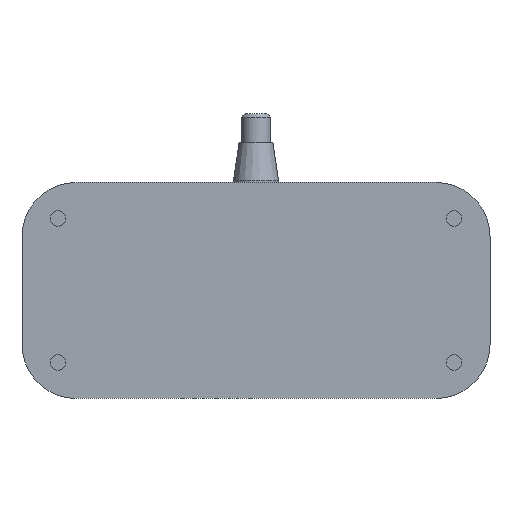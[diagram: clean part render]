
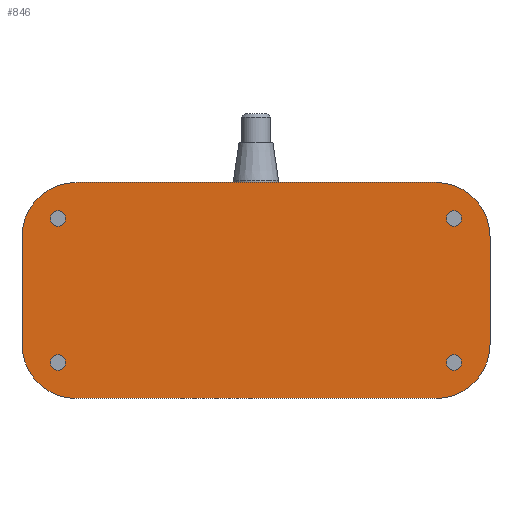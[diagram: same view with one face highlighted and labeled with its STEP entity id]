
A CAD part, front view. The second image highlights one B-rep face of the part: STEP entity #846.
In plain terms, the highlighted planar face has unit normal (0, -1, 0).
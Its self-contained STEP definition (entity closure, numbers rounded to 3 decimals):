
#18 = CARTESIAN_POINT ( 'NONE',  ( -130., 0., -30. ) ) ;
#21 = CIRCLE ( 'NONE', #177, 30. ) ;
#45 = CARTESIAN_POINT ( 'NONE',  ( -100., 0., -60. ) ) ;
#46 = LINE ( 'NONE', #1922, #539 ) ;
#151 = ORIENTED_EDGE ( 'NONE', *, *, #642, .T. ) ;
#159 = CARTESIAN_POINT ( 'NONE',  ( -110., 0., -40. ) ) ;
#177 = AXIS2_PLACEMENT_3D ( 'NONE', #2047, #2040, #2034 ) ;
#201 = ORIENTED_EDGE ( 'NONE', *, *, #728, .T. ) ;
#205 = ORIENTED_EDGE ( 'NONE', *, *, #816, .T. ) ;
#214 = ORIENTED_EDGE ( 'NONE', *, *, #1676, .T. ) ;
#222 = CIRCLE ( 'NONE', #2004, 4.25 ) ;
#229 = CARTESIAN_POINT ( 'NONE',  ( 110., 0., -40. ) ) ;
#234 = ORIENTED_EDGE ( 'NONE', *, *, #650, .F. ) ;
#254 = LINE ( 'NONE', #726, #2121 ) ;
#284 = DIRECTION ( 'NONE',  ( -1., 0., 0. ) ) ;
#306 = DIRECTION ( 'NONE',  ( 0., -1., 0. ) ) ;
#323 = CARTESIAN_POINT ( 'NONE',  ( 105.75, 0., -40. ) ) ;
#361 = LINE ( 'NONE', #1060, #1297 ) ;
#399 = CARTESIAN_POINT ( 'NONE',  ( -105.75, 0., 40. ) ) ;
#411 = CIRCLE ( 'NONE', #683, 30. ) ;
#455 = FACE_BOUND ( 'NONE', #577, .T. ) ;
#503 = EDGE_CURVE ( 'NONE', #1190, #2207, #46, .T. ) ;
#511 = CIRCLE ( 'NONE', #1199, 4.25 ) ;
#539 = VECTOR ( 'NONE', #1910, 1000. ) ;
#541 = DIRECTION ( 'NONE',  ( 0., -1., 0. ) ) ;
#577 = EDGE_LOOP ( 'NONE', ( #693, #1717 ) ) ;
#580 = DIRECTION ( 'NONE',  ( 0., -1., 0. ) ) ;
#585 = CARTESIAN_POINT ( 'NONE',  ( 110., 0., -40. ) ) ;
#600 = ORIENTED_EDGE ( 'NONE', *, *, #1804, .F. ) ;
#612 = CARTESIAN_POINT ( 'NONE',  ( 100., 0., 30. ) ) ;
#619 = LINE ( 'NONE', #2171, #2061 ) ;
#632 = VERTEX_POINT ( 'NONE', #1033 ) ;
#642 = EDGE_CURVE ( 'NONE', #1446, #1190, #1712, .T. ) ;
#650 = EDGE_CURVE ( 'NONE', #2049, #854, #254, .T. ) ;
#655 = DIRECTION ( 'NONE',  ( 0., 0., -1. ) ) ;
#683 = AXIS2_PLACEMENT_3D ( 'NONE', #612, #1931, #1950 ) ;
#693 = ORIENTED_EDGE ( 'NONE', *, *, #1993, .F. ) ;
#697 = CARTESIAN_POINT ( 'NONE',  ( 130., 0., 30. ) ) ;
#726 = CARTESIAN_POINT ( 'NONE',  ( 130., 0., 60. ) ) ;
#728 = EDGE_CURVE ( 'NONE', #2207, #854, #2013, .T. ) ;
#749 = EDGE_CURVE ( 'NONE', #632, #1695, #1085, .T. ) ;
#779 = VERTEX_POINT ( 'NONE', #2130 ) ;
#792 = ORIENTED_EDGE ( 'NONE', *, *, #989, .F. ) ;
#813 = CARTESIAN_POINT ( 'NONE',  ( -100., 0., -30. ) ) ;
#816 = EDGE_CURVE ( 'NONE', #1011, #996, #21, .T. ) ;
#836 = DIRECTION ( 'NONE',  ( 0., -1., 0. ) ) ;
#846 = ADVANCED_FACE ( 'NONE', ( #1543, #1845, #2276, #455, #896 ), #1934, .F. ) ;
#847 = AXIS2_PLACEMENT_3D ( 'NONE', #229, #541, #981 ) ;
#852 = EDGE_LOOP ( 'NONE', ( #1555, #201, #234, #1008, #1191, #205, #214, #151 ) ) ;
#854 = VERTEX_POINT ( 'NONE', #1807 ) ;
#896 = FACE_OUTER_BOUND ( 'NONE', #852, .T. ) ;
#903 = DIRECTION ( 'NONE',  ( 1., 0., 0. ) ) ;
#911 = DIRECTION ( 'NONE',  ( 0., -1., 0. ) ) ;
#916 = CIRCLE ( 'NONE', #1542, 4.25 ) ;
#933 = CARTESIAN_POINT ( 'NONE',  ( 100., 0., -60. ) ) ;
#949 = DIRECTION ( 'NONE',  ( 1., 0., 0. ) ) ;
#955 = DIRECTION ( 'NONE',  ( 0., -1., 0. ) ) ;
#967 = CARTESIAN_POINT ( 'NONE',  ( -110., 0., -40. ) ) ;
#981 = DIRECTION ( 'NONE',  ( 1., 0., 0. ) ) ;
#982 = CIRCLE ( 'NONE', #1505, 4.25 ) ;
#987 = CARTESIAN_POINT ( 'NONE',  ( 100., 0., 60. ) ) ;
#989 = EDGE_CURVE ( 'NONE', #2069, #2281, #222, .T. ) ;
#996 = VERTEX_POINT ( 'NONE', #1175 ) ;
#1008 = ORIENTED_EDGE ( 'NONE', *, *, #1949, .T. ) ;
#1010 = DIRECTION ( 'NONE',  ( 1., 0., 0. ) ) ;
#1011 = VERTEX_POINT ( 'NONE', #1233 ) ;
#1031 = VERTEX_POINT ( 'NONE', #1040 ) ;
#1033 = CARTESIAN_POINT ( 'NONE',  ( -114.25, 0., 40. ) ) ;
#1040 = CARTESIAN_POINT ( 'NONE',  ( 114.25, 0., -40. ) ) ;
#1060 = CARTESIAN_POINT ( 'NONE',  ( -130., 0., 60. ) ) ;
#1064 = AXIS2_PLACEMENT_3D ( 'NONE', #1926, #1999, #1828 ) ;
#1085 = CIRCLE ( 'NONE', #2037, 4.25 ) ;
#1093 = EDGE_LOOP ( 'NONE', ( #1613, #1116 ) ) ;
#1105 = AXIS2_PLACEMENT_3D ( 'NONE', #813, #836, #284 ) ;
#1116 = ORIENTED_EDGE ( 'NONE', *, *, #1345, .F. ) ;
#1174 = DIRECTION ( 'NONE',  ( 1., 0., 0. ) ) ;
#1175 = CARTESIAN_POINT ( 'NONE',  ( -130., 0., 30. ) ) ;
#1190 = VERTEX_POINT ( 'NONE', #45 ) ;
#1191 = ORIENTED_EDGE ( 'NONE', *, *, #1563, .F. ) ;
#1194 = ORIENTED_EDGE ( 'NONE', *, *, #1502, .F. ) ;
#1199 = AXIS2_PLACEMENT_3D ( 'NONE', #585, #580, #1479 ) ;
#1205 = CIRCLE ( 'NONE', #2163, 4.25 ) ;
#1217 = DIRECTION ( 'NONE',  ( 1., 0., 0. ) ) ;
#1225 = DIRECTION ( 'NONE',  ( 0., -1., 0. ) ) ;
#1229 = DIRECTION ( 'NONE',  ( 0., -1., 0. ) ) ;
#1230 = CARTESIAN_POINT ( 'NONE',  ( 110., 0., 40. ) ) ;
#1233 = CARTESIAN_POINT ( 'NONE',  ( -100., 0., 60. ) ) ;
#1235 = VERTEX_POINT ( 'NONE', #323 ) ;
#1239 = CARTESIAN_POINT ( 'NONE',  ( 110., 0., 40. ) ) ;
#1297 = VECTOR ( 'NONE', #1010, 1000. ) ;
#1345 = EDGE_CURVE ( 'NONE', #1235, #1031, #511, .T. ) ;
#1367 = CARTESIAN_POINT ( 'NONE',  ( -114.25, 0., -40. ) ) ;
#1446 = VERTEX_POINT ( 'NONE', #18 ) ;
#1452 = EDGE_LOOP ( 'NONE', ( #792, #600 ) ) ;
#1472 = AXIS2_PLACEMENT_3D ( 'NONE', #967, #955, #949 ) ;
#1479 = DIRECTION ( 'NONE',  ( 1., 0., 0. ) ) ;
#1480 = CARTESIAN_POINT ( 'NONE',  ( 114.25, 0., 40. ) ) ;
#1502 = EDGE_CURVE ( 'NONE', #779, #2155, #982, .T. ) ;
#1505 = AXIS2_PLACEMENT_3D ( 'NONE', #159, #911, #903 ) ;
#1514 = EDGE_LOOP ( 'NONE', ( #1194, #2133 ) ) ;
#1542 = AXIS2_PLACEMENT_3D ( 'NONE', #2076, #2215, #1769 ) ;
#1543 = FACE_BOUND ( 'NONE', #1514, .T. ) ;
#1555 = ORIENTED_EDGE ( 'NONE', *, *, #503, .T. ) ;
#1563 = EDGE_CURVE ( 'NONE', #1011, #2175, #361, .T. ) ;
#1581 = CARTESIAN_POINT ( 'NONE',  ( 105.75, 0., 40. ) ) ;
#1613 = ORIENTED_EDGE ( 'NONE', *, *, #2293, .F. ) ;
#1676 = EDGE_CURVE ( 'NONE', #996, #1446, #619, .T. ) ;
#1695 = VERTEX_POINT ( 'NONE', #399 ) ;
#1712 = CIRCLE ( 'NONE', #1105, 30. ) ;
#1717 = ORIENTED_EDGE ( 'NONE', *, *, #749, .F. ) ;
#1753 = EDGE_CURVE ( 'NONE', #2155, #779, #2177, .T. ) ;
#1769 = DIRECTION ( 'NONE',  ( 1., 0., 0. ) ) ;
#1804 = EDGE_CURVE ( 'NONE', #2281, #2069, #1205, .T. ) ;
#1807 = CARTESIAN_POINT ( 'NONE',  ( 130., 0., -30. ) ) ;
#1828 = DIRECTION ( 'NONE',  ( -1., 0., 0. ) ) ;
#1845 = FACE_BOUND ( 'NONE', #1093, .T. ) ;
#1910 = DIRECTION ( 'NONE',  ( 1., 0., 0. ) ) ;
#1922 = CARTESIAN_POINT ( 'NONE',  ( -130., 0., -60. ) ) ;
#1924 = AXIS2_PLACEMENT_3D ( 'NONE', #2216, #2214, #2212 ) ;
#1926 = CARTESIAN_POINT ( 'NONE',  ( -130., 0., 60. ) ) ;
#1931 = DIRECTION ( 'NONE',  ( 0., -1., 0. ) ) ;
#1934 = PLANE ( 'NONE',  #1064 ) ;
#1949 = EDGE_CURVE ( 'NONE', #2049, #2175, #411, .T. ) ;
#1950 = DIRECTION ( 'NONE',  ( -1., 0., 0. ) ) ;
#1993 = EDGE_CURVE ( 'NONE', #1695, #632, #916, .T. ) ;
#1999 = DIRECTION ( 'NONE',  ( 0., 1., 0. ) ) ;
#2004 = AXIS2_PLACEMENT_3D ( 'NONE', #1230, #1225, #1217 ) ;
#2013 = CIRCLE ( 'NONE', #1924, 30. ) ;
#2034 = DIRECTION ( 'NONE',  ( -1., 0., 0. ) ) ;
#2037 = AXIS2_PLACEMENT_3D ( 'NONE', #2160, #306, #2142 ) ;
#2040 = DIRECTION ( 'NONE',  ( 0., -1., 0. ) ) ;
#2047 = CARTESIAN_POINT ( 'NONE',  ( -100., 0., 30. ) ) ;
#2049 = VERTEX_POINT ( 'NONE', #697 ) ;
#2061 = VECTOR ( 'NONE', #2190, 1000. ) ;
#2069 = VERTEX_POINT ( 'NONE', #1480 ) ;
#2076 = CARTESIAN_POINT ( 'NONE',  ( -110., 0., 40. ) ) ;
#2121 = VECTOR ( 'NONE', #655, 1000. ) ;
#2130 = CARTESIAN_POINT ( 'NONE',  ( -105.75, 0., -40. ) ) ;
#2133 = ORIENTED_EDGE ( 'NONE', *, *, #1753, .F. ) ;
#2134 = CIRCLE ( 'NONE', #847, 4.25 ) ;
#2142 = DIRECTION ( 'NONE',  ( 1., 0., 0. ) ) ;
#2155 = VERTEX_POINT ( 'NONE', #1367 ) ;
#2160 = CARTESIAN_POINT ( 'NONE',  ( -110., 0., 40. ) ) ;
#2163 = AXIS2_PLACEMENT_3D ( 'NONE', #1239, #1229, #1174 ) ;
#2171 = CARTESIAN_POINT ( 'NONE',  ( -130., 0., 60. ) ) ;
#2175 = VERTEX_POINT ( 'NONE', #987 ) ;
#2177 = CIRCLE ( 'NONE', #1472, 4.25 ) ;
#2190 = DIRECTION ( 'NONE',  ( 0., 0., -1. ) ) ;
#2207 = VERTEX_POINT ( 'NONE', #933 ) ;
#2212 = DIRECTION ( 'NONE',  ( -1., 0., 0. ) ) ;
#2214 = DIRECTION ( 'NONE',  ( 0., -1., 0. ) ) ;
#2215 = DIRECTION ( 'NONE',  ( 0., -1., 0. ) ) ;
#2216 = CARTESIAN_POINT ( 'NONE',  ( 100., 0., -30. ) ) ;
#2276 = FACE_BOUND ( 'NONE', #1452, .T. ) ;
#2281 = VERTEX_POINT ( 'NONE', #1581 ) ;
#2293 = EDGE_CURVE ( 'NONE', #1031, #1235, #2134, .T. ) ;
